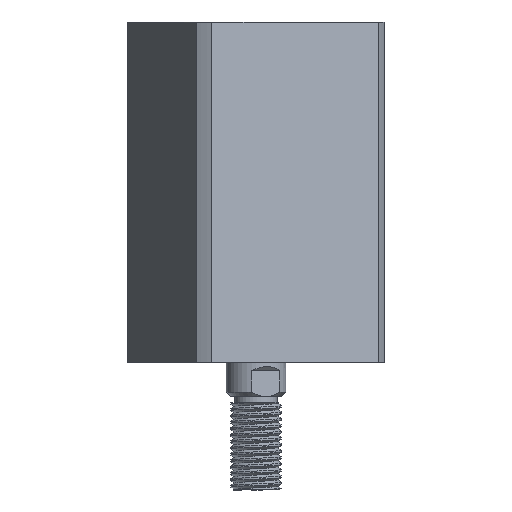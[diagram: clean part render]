
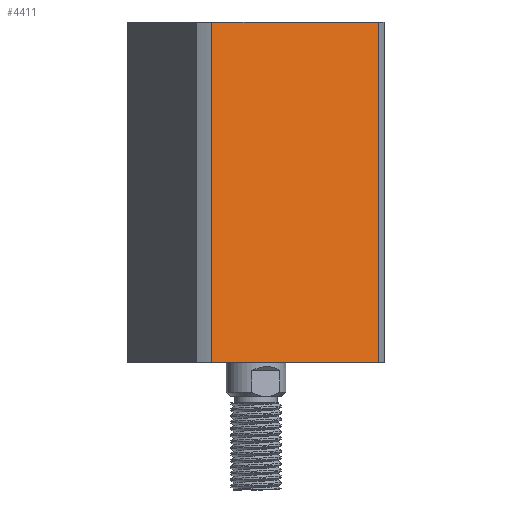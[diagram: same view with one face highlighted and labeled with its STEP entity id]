
A CAD part, left-side view. The second image highlights one B-rep face of the part: STEP entity #4411.
In plain terms, the highlighted planar face has unit normal (-0.924, -0.383, 0) as drawn and (1, 0, 0) by its records, which use the part's own axes.
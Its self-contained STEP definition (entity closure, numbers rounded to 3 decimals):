
#156 = AXIS2_PLACEMENT_3D ( 'NONE', #3132, #3967, #9823 ) ;
#320 = EDGE_CURVE ( 'NONE', #7361, #10798, #5639, .T. ) ;
#422 = VECTOR ( 'NONE', #8225, 1000. ) ;
#453 = DIRECTION ( 'NONE',  ( 0., 1., 0. ) ) ;
#1151 = CARTESIAN_POINT ( 'NONE',  ( 24., -21.166, 0. ) ) ;
#1166 = CARTESIAN_POINT ( 'NONE',  ( 24., 24., 80. ) ) ;
#1235 = EDGE_CURVE ( 'NONE', #3209, #9291, #1684, .T. ) ;
#1299 = CARTESIAN_POINT ( 'NONE',  ( 24., 24., 0. ) ) ;
#1602 = VECTOR ( 'NONE', #453, 1000. ) ;
#1684 = LINE ( 'NONE', #3309, #3630 ) ;
#2266 = ORIENTED_EDGE ( 'NONE', *, *, #1235, .F. ) ;
#3132 = CARTESIAN_POINT ( 'NONE',  ( 24., 24., 80. ) ) ;
#3209 = VERTEX_POINT ( 'NONE', #8605 ) ;
#3309 = CARTESIAN_POINT ( 'NONE',  ( 24., 21.166, -520. ) ) ;
#3630 = VECTOR ( 'NONE', #6667, 1000. ) ;
#3967 = DIRECTION ( 'NONE',  ( -1., 0., 0. ) ) ;
#4032 = CARTESIAN_POINT ( 'NONE',  ( 24., -21.166, -520. ) ) ;
#4289 = ORIENTED_EDGE ( 'NONE', *, *, #10036, .T. ) ;
#4411 = ADVANCED_FACE ( 'NONE', ( #5421 ), #7302, .F. ) ;
#4618 = ORIENTED_EDGE ( 'NONE', *, *, #6057, .F. ) ;
#5421 = FACE_OUTER_BOUND ( 'NONE', #8408, .T. ) ;
#5602 = CARTESIAN_POINT ( 'NONE',  ( 24., 21.166, 0. ) ) ;
#5639 = LINE ( 'NONE', #4032, #422 ) ;
#6057 = EDGE_CURVE ( 'NONE', #10798, #3209, #8956, .T. ) ;
#6148 = DIRECTION ( 'NONE',  ( 0., 1., 0. ) ) ;
#6667 = DIRECTION ( 'NONE',  ( 0., 0., -1. ) ) ;
#7302 = PLANE ( 'NONE',  #156 ) ;
#7361 = VERTEX_POINT ( 'NONE', #1151 ) ;
#7740 = CARTESIAN_POINT ( 'NONE',  ( 24., -21.166, 80. ) ) ;
#8225 = DIRECTION ( 'NONE',  ( 0., 0., 1. ) ) ;
#8271 = LINE ( 'NONE', #1299, #1602 ) ;
#8408 = EDGE_LOOP ( 'NONE', ( #9970, #4289, #2266, #4618 ) ) ;
#8605 = CARTESIAN_POINT ( 'NONE',  ( 24., 21.166, 80. ) ) ;
#8956 = LINE ( 'NONE', #1166, #9219 ) ;
#9219 = VECTOR ( 'NONE', #6148, 1000. ) ;
#9291 = VERTEX_POINT ( 'NONE', #5602 ) ;
#9823 = DIRECTION ( 'NONE',  ( 0., -1., 0. ) ) ;
#9970 = ORIENTED_EDGE ( 'NONE', *, *, #320, .F. ) ;
#10036 = EDGE_CURVE ( 'NONE', #7361, #9291, #8271, .T. ) ;
#10798 = VERTEX_POINT ( 'NONE', #7740 ) ;
